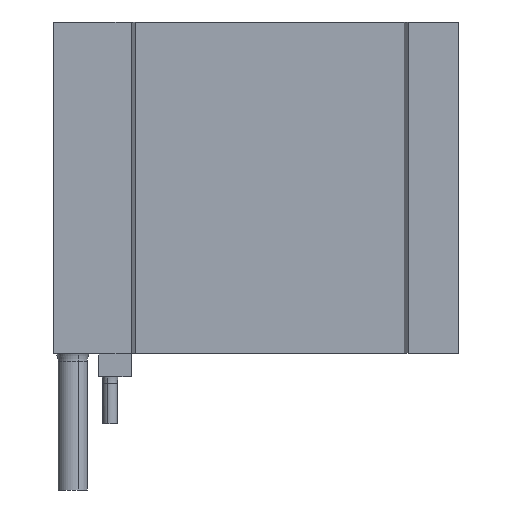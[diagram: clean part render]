
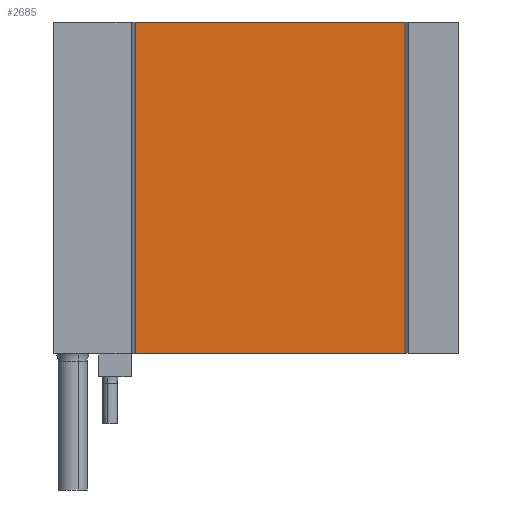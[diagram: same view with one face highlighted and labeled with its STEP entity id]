
A CAD part, left-side view. The second image highlights one B-rep face of the part: STEP entity #2685.
In plain terms, the highlighted planar face has unit normal (-1, 0, 0).
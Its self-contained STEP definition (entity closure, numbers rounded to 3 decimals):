
#85 = EDGE_CURVE ( 'NONE', #1607, #1395, #454, .T. ) ;
#189 = FACE_OUTER_BOUND ( 'NONE', #3089, .T. ) ;
#304 = DIRECTION ( 'NONE',  ( 0., -1., 0. ) ) ;
#367 = VECTOR ( 'NONE', #1125, 1000. ) ;
#454 = LINE ( 'NONE', #2447, #4489 ) ;
#465 = DIRECTION ( 'NONE',  ( 0., 0., 1. ) ) ;
#799 = CARTESIAN_POINT ( 'NONE',  ( 66.6, 231.204, 365.517 ) ) ;
#1107 = DIRECTION ( 'NONE',  ( 0., 0., -1. ) ) ;
#1125 = DIRECTION ( 'NONE',  ( 0., 0., -1. ) ) ;
#1395 = VERTEX_POINT ( 'NONE', #2154 ) ;
#1414 = EDGE_CURVE ( 'NONE', #1395, #2134, #5628, .T. ) ;
#1493 = AXIS2_PLACEMENT_3D ( 'NONE', #3699, #5678, #1107 ) ;
#1515 = LINE ( 'NONE', #3409, #5648 ) ;
#1607 = VERTEX_POINT ( 'NONE', #3650 ) ;
#1765 = LINE ( 'NONE', #6319, #3338 ) ;
#2134 = VERTEX_POINT ( 'NONE', #2723 ) ;
#2154 = CARTESIAN_POINT ( 'NONE',  ( 66.6, 231.204, 365.517 ) ) ;
#2447 = CARTESIAN_POINT ( 'NONE',  ( 66.6, 298.704, 365.517 ) ) ;
#2685 = ADVANCED_FACE ( 'NONE', ( #189 ), #3600, .F. ) ;
#2723 = CARTESIAN_POINT ( 'NONE',  ( 66.6, 231.204, 280.517 ) ) ;
#3089 = EDGE_LOOP ( 'NONE', ( #6002, #6053, #6482, #3619 ) ) ;
#3338 = VECTOR ( 'NONE', #304, 1000. ) ;
#3409 = CARTESIAN_POINT ( 'NONE',  ( 66.6, 300.204, 280.517 ) ) ;
#3449 = CARTESIAN_POINT ( 'NONE',  ( 66.6, 300.204, 280.517 ) ) ;
#3600 = PLANE ( 'NONE',  #1493 ) ;
#3619 = ORIENTED_EDGE ( 'NONE', *, *, #4938, .F. ) ;
#3650 = CARTESIAN_POINT ( 'NONE',  ( 66.6, 300.204, 365.517 ) ) ;
#3699 = CARTESIAN_POINT ( 'NONE',  ( 66.6, 298.704, 365.517 ) ) ;
#4454 = DIRECTION ( 'NONE',  ( 0., -1., 0. ) ) ;
#4489 = VECTOR ( 'NONE', #4454, 1000. ) ;
#4938 = EDGE_CURVE ( 'NONE', #5283, #1607, #1515, .T. ) ;
#5220 = EDGE_CURVE ( 'NONE', #5283, #2134, #1765, .T. ) ;
#5283 = VERTEX_POINT ( 'NONE', #3449 ) ;
#5628 = LINE ( 'NONE', #799, #367 ) ;
#5648 = VECTOR ( 'NONE', #465, 1000. ) ;
#5678 = DIRECTION ( 'NONE',  ( 1., 0., 0. ) ) ;
#6002 = ORIENTED_EDGE ( 'NONE', *, *, #5220, .T. ) ;
#6053 = ORIENTED_EDGE ( 'NONE', *, *, #1414, .F. ) ;
#6319 = CARTESIAN_POINT ( 'NONE',  ( 66.6, 298.704, 280.517 ) ) ;
#6482 = ORIENTED_EDGE ( 'NONE', *, *, #85, .F. ) ;
